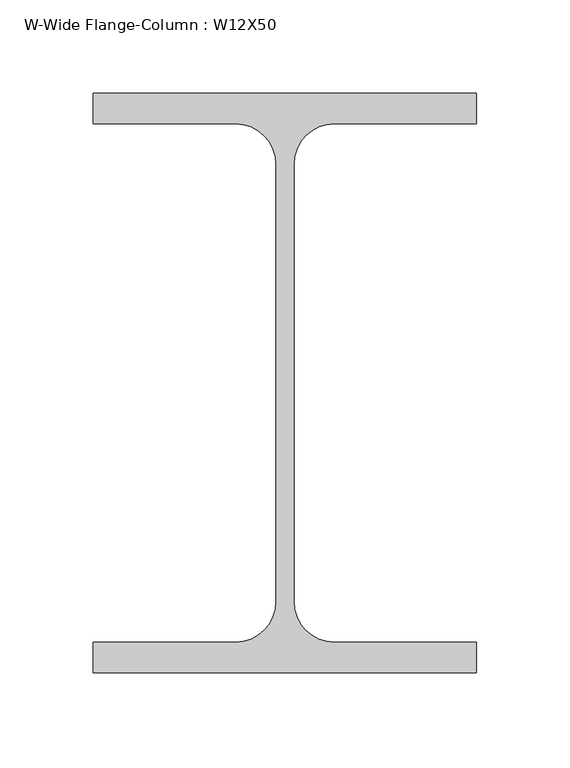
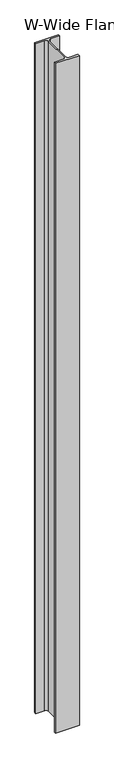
"""IFC4 building model written with IfcOpenShell, lengths in millimetres: column geometry, W-Wide Flange-Column : W12X50."""

from ifc_helpers import new_model, si_unit, point, frame_2d, origin, origin_with_axes, place, context, project, spatial, polyline, circle_curve, trimmed, segment, composite_curve, outline, extrude, source, transform, mapped, element, save


def w_wide_flange_column_w12x50_abcd480c(model_context):
    return source(origin(), model_context, "Body", "SweptSolid", [
        extrude(outline(composite_curve([segment(polyline([(102.616, 154.94), (102.616, 138.684), (26.543, 138.684)]), True, "CONTINUOUS"), segment(trimmed(circle_curve(frame_2d((26.543, 116.84)), 21.844), [point((26.543, 138.684))], [point((4.699, 116.84))], True, "CARTESIAN"), True, "CONTINUOUS"), segment(polyline([(4.699, 116.84), (4.699, -116.84)]), True, "CONTINUOUS"), segment(trimmed(circle_curve(frame_2d((26.543, -116.84)), 21.844), [point((4.699, -116.84))], [point((26.543, -138.684))], True, "CARTESIAN"), True, "CONTINUOUS"), segment(polyline([(26.543, -138.684), (102.616, -138.684), (102.616, -154.94), (-102.616, -154.94), (-102.616, -138.684), (-26.543, -138.684)]), True, "CONTINUOUS"), segment(trimmed(circle_curve(frame_2d((-26.543, -116.84)), 21.844), [point((-26.543, -138.684))], [point((-4.699, -116.84))], True, "CARTESIAN"), True, "CONTINUOUS"), segment(polyline([(-4.699, -116.84), (-4.699, 116.84)]), True, "CONTINUOUS"), segment(trimmed(circle_curve(frame_2d((-26.543, 116.84)), 21.844), [point((-4.699, 116.84))], [point((-26.543, 138.684))], True, "CARTESIAN"), True, "CONTINUOUS"), segment(polyline([(-26.543, 138.684), (-102.616, 138.684), (-102.616, 154.94), (102.616, 154.94)]), True, "CONTINUOUS")], self_intersect=False)), origin_with_axes(), (0.0, 0.0, 1.0), 6096.0),
    ])


if __name__ == "__main__":
    model = new_model("IFC4")
    model_context = context("Model", 3, world=origin())
    ifc_project = project(units=[si_unit("LENGTHUNIT", "METRE", prefix="MILLI")], contexts=[model_context])
    site = spatial("IfcSite", under=ifc_project)
    building = spatial("IfcBuilding", under=site)
    placement = place(None, origin())
    w_wide_flange_column_w12x50_shape = w_wide_flange_column_w12x50_abcd480c(model_context)
    element("IfcColumn", 1, ObjectType="W-Wide Flange-Column : W12X50", at=placement, inside=building, context=model_context, shape_type="MappedRepresentation", body=[
        mapped(w_wide_flange_column_w12x50_shape, transform((0.0, 0.0, 0.0), x_axis=(1.0, 0.0, 0.0), y_axis=(0.0, 1.0, 0.0), z_axis=(0.0, 0.0, 1.0))),
    ])
    save(model, "model.ifc")
